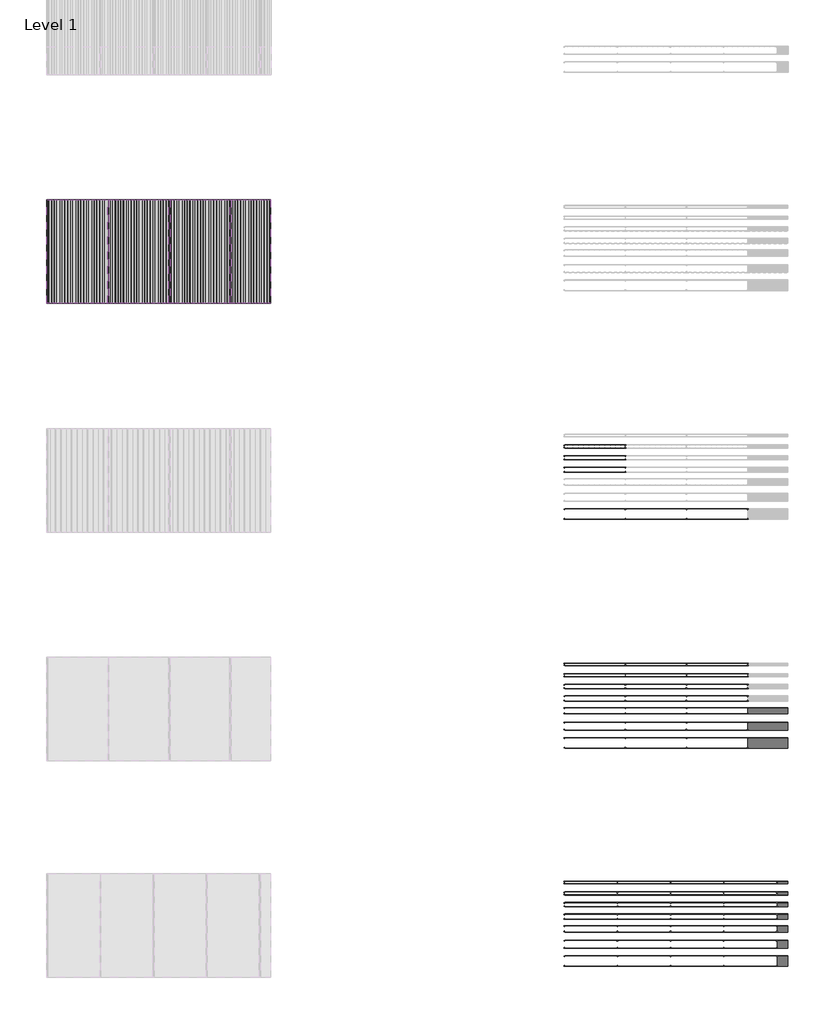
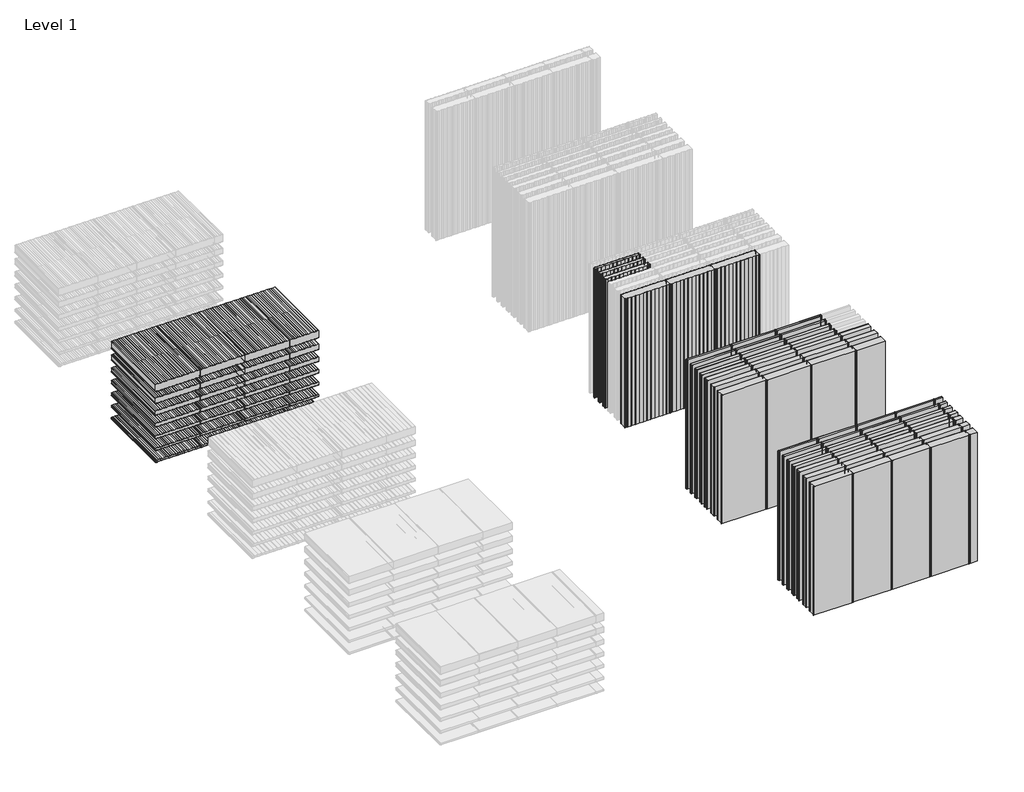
# One storey, part 2 of 4: 93 plates.
"""IFC4 building model written with IfcOpenShell, lengths in millimetres."""

from ifc_helpers import new_model, si_unit, origin, place, context, project, spatial, transform, mapped, element, save
from components import pm1_curtain_panel_a69c14b6, pm1_curtain_panel_199faaa9, pm1_curtain_panel_c875587f, pm1_curtain_panel_6e56c0e7, pm1_curtain_panel_8cfa1c77, pm1_curtain_panel_0b0c5db0, pm1_curtain_panel_f8caf6f3, pm1_curtain_panel_0c0490de, pm1_curtain_panel_82ab8441, pm1_curtain_panel_4f92d4e1, pm1_curtain_panel_da88d7a2, pm1_curtain_panel_565afd56, pm1_curtain_panel_0f760af8, pm1_curtain_panel_8dcfa809, pm1_curtain_panel_flat_profile_ec73de58, pm1_curtain_panel_flat_profile_ea613ef7, pm1_curtain_panel_flat_profile_9c3fc237, pm1_curtain_panel_flat_profile_005291e4, pm1_curtain_panel_flat_profile_9e77dd8b, pm1_curtain_panel_flat_profile_8b054a2c, pm1_curtain_panel_flat_profile_749cd09d, pm1_curtain_panel_flat_profile_bbe97bc2, pm1_curtain_panel_flat_profile_227fa7ea, pm1_curtain_panel_flat_profile_f8a9f7f1, pm1_curtain_panel_micro_ribbed_profile_8efd6a00, pm1_curtain_panel_micro_ribbed_profile_60066d41, pm1_curtain_panel_micro_ribbed_profile_67889fbb, pm1_curtain_panel_micro_ribbed_profile_4c8cd07a, pmh_curtain_panel_flat_profile_f33e06ce, pmh_curtain_panel_flat_profile_2c1a84a9, pmh_curtain_panel_flat_profile_783773f9, pmh_curtain_panel_flat_profile_ba4a8c55, pmh_curtain_panel_flat_profile_743ba4fc, pmh_curtain_panel_flat_profile_8f51420d, pmh_curtain_panel_flat_profile_07da86de, pmh_curtain_panel_flat_profile_cc251eb6, pmh_curtain_panel_flat_profile_66ccdea5, pmh_curtain_panel_flat_profile_36b9df94, pmh_curtain_panel_flat_profile_bc48084c, pmh_curtain_panel_flat_profile_8a9b628f, pmh_curtain_panel_flat_profile_4922355f, pmh_curtain_panel_flat_profile_30f47993

model = new_model("IFC4")

# Units and contexts
model_context = context("Model", 3, world=origin())
ifc_project = project(units=[si_unit("LENGTHUNIT", "METRE", prefix="MILLI")], contexts=[model_context])

# Site, building, storey
site = spatial("IfcSite", under=ifc_project)
building = spatial("IfcBuilding", under=site)
storey = spatial("IfcBuildingStorey", under=building, Name="Level 1", Elevation=0.0)

# Plates
placement = place(None, origin())
pm1_curtain_panel_shape = pm1_curtain_panel_a69c14b6(model_context)
element("IfcPlate", 1, ObjectType="PM1_Curtain-Panel : ACH_PM1_Stone-wool-Panel_50M", at=placement, inside=storey, context=model_context, shape_type="MappedRepresentation", body=[
    mapped(pm1_curtain_panel_shape, transform((-20457.9364012, -419.7144508, 0.0), x_axis=(1.0, 0.0, 0.0), y_axis=(0.0, 0.0, -1.0), z_axis=(0.0, 1.0, 0.0))),
])
element("IfcPlate", 2, ObjectType="PM1_Curtain-Panel : ACH_PM1_Stone-wool-Panel_50M", at=placement, inside=storey, context=model_context, shape_type="MappedRepresentation", body=[
    mapped(pm1_curtain_panel_shape, transform((-19307.9364012, -419.7144508, 0.0), x_axis=(1.0, 0.0, 0.0), y_axis=(0.0, 0.0, -1.0), z_axis=(0.0, 1.0, 0.0))),
])
element("IfcPlate", 3, ObjectType="PM1_Curtain-Panel : ACH_PM1_Stone-wool-Panel_50M", at=placement, inside=storey, context=model_context, shape_type="MappedRepresentation", body=[
    mapped(pm1_curtain_panel_shape, transform((-18157.9364012, -419.7144508, 0.0), x_axis=(1.0, 0.0, 0.0), y_axis=(0.0, 0.0, -1.0), z_axis=(0.0, 1.0, 0.0))),
])
pm1_curtain_panel_2_shape = pm1_curtain_panel_199faaa9(model_context)
element("IfcPlate", 4, ObjectType="PM1_Curtain-Panel : ACH_PM1_Stone-wool-Panel_50M", at=placement, inside=storey, context=model_context, shape_type="MappedRepresentation", body=[
    mapped(pm1_curtain_panel_2_shape, transform((-17207.9244272, -419.7144508, 0.0), x_axis=(1.0, 0.0, 0.0), y_axis=(0.0, 0.0, -1.0), z_axis=(0.0, 1.0, 0.0))),
])
pm1_curtain_panel_3_shape = pm1_curtain_panel_c875587f(model_context)
element("IfcPlate", 5, ObjectType="PM1_Curtain-Panel : ACH_PM1_Stone-wool-Panel_60M", at=placement, inside=storey, context=model_context, shape_type="MappedRepresentation", body=[
    mapped(pm1_curtain_panel_3_shape, transform((-20457.9364012, -419.7144508, 320.0), x_axis=(1.0, 0.0, 0.0), y_axis=(0.0, 0.0, -1.0), z_axis=(0.0, 1.0, 0.0))),
])
element("IfcPlate", 6, ObjectType="PM1_Curtain-Panel : ACH_PM1_Stone-wool-Panel_60M", at=placement, inside=storey, context=model_context, shape_type="MappedRepresentation", body=[
    mapped(pm1_curtain_panel_3_shape, transform((-19307.9364012, -419.7144508, 320.0), x_axis=(1.0, 0.0, 0.0), y_axis=(0.0, 0.0, -1.0), z_axis=(0.0, 1.0, 0.0))),
])
element("IfcPlate", 7, ObjectType="PM1_Curtain-Panel : ACH_PM1_Stone-wool-Panel_60M", at=placement, inside=storey, context=model_context, shape_type="MappedRepresentation", body=[
    mapped(pm1_curtain_panel_3_shape, transform((-18157.9364012, -419.7144508, 320.0), x_axis=(1.0, 0.0, 0.0), y_axis=(0.0, 0.0, -1.0), z_axis=(0.0, 1.0, 0.0))),
])
pm1_curtain_panel_4_shape = pm1_curtain_panel_6e56c0e7(model_context)
element("IfcPlate", 8, ObjectType="PM1_Curtain-Panel : ACH_PM1_Stone-wool-Panel_60M", at=placement, inside=storey, context=model_context, shape_type="MappedRepresentation", body=[
    mapped(pm1_curtain_panel_4_shape, transform((-17207.9244272, -419.7144508, 320.0), x_axis=(1.0, 0.0, 0.0), y_axis=(0.0, 0.0, -1.0), z_axis=(0.0, 1.0, 0.0))),
])
pm1_curtain_panel_5_shape = pm1_curtain_panel_8cfa1c77(model_context)
element("IfcPlate", 9, ObjectType="PM1_Curtain-Panel : ACH_PM1_Stone-wool-Panel_80M", at=placement, inside=storey, context=model_context, shape_type="MappedRepresentation", body=[
    mapped(pm1_curtain_panel_5_shape, transform((-20457.9364012, -419.7144508, 640.0), x_axis=(1.0, 0.0, 0.0), y_axis=(0.0, 0.0, -1.0), z_axis=(0.0, 1.0, 0.0))),
])
element("IfcPlate", 10, ObjectType="PM1_Curtain-Panel : ACH_PM1_Stone-wool-Panel_80M", at=placement, inside=storey, context=model_context, shape_type="MappedRepresentation", body=[
    mapped(pm1_curtain_panel_5_shape, transform((-19307.9364012, -419.7144508, 640.0), x_axis=(1.0, 0.0, 0.0), y_axis=(0.0, 0.0, -1.0), z_axis=(0.0, 1.0, 0.0))),
])
element("IfcPlate", 11, ObjectType="PM1_Curtain-Panel : ACH_PM1_Stone-wool-Panel_80M", at=placement, inside=storey, context=model_context, shape_type="MappedRepresentation", body=[
    mapped(pm1_curtain_panel_5_shape, transform((-18157.9364012, -419.7144508, 640.0), x_axis=(1.0, 0.0, 0.0), y_axis=(0.0, 0.0, -1.0), z_axis=(0.0, 1.0, 0.0))),
])
pm1_curtain_panel_6_shape = pm1_curtain_panel_0b0c5db0(model_context)
element("IfcPlate", 12, ObjectType="PM1_Curtain-Panel : ACH_PM1_Stone-wool-Panel_80M", at=placement, inside=storey, context=model_context, shape_type="MappedRepresentation", body=[
    mapped(pm1_curtain_panel_6_shape, transform((-17207.9244272, -419.7144508, 640.0), x_axis=(1.0, 0.0, 0.0), y_axis=(0.0, 0.0, -1.0), z_axis=(0.0, 1.0, 0.0))),
])
pm1_curtain_panel_7_shape = pm1_curtain_panel_f8caf6f3(model_context)
element("IfcPlate", 13, ObjectType="PM1_Curtain-Panel : ACH_PM1_Stone-wool-Panel_100M", at=placement, inside=storey, context=model_context, shape_type="MappedRepresentation", body=[
    mapped(pm1_curtain_panel_7_shape, transform((-20457.9364012, -419.7144508, 960.0), x_axis=(1.0, 0.0, 0.0), y_axis=(0.0, 0.0, -1.0), z_axis=(0.0, 1.0, 0.0))),
])
element("IfcPlate", 14, ObjectType="PM1_Curtain-Panel : ACH_PM1_Stone-wool-Panel_100M", at=placement, inside=storey, context=model_context, shape_type="MappedRepresentation", body=[
    mapped(pm1_curtain_panel_7_shape, transform((-19307.9364012, -419.7144508, 960.0), x_axis=(1.0, 0.0, 0.0), y_axis=(0.0, 0.0, -1.0), z_axis=(0.0, 1.0, 0.0))),
])
element("IfcPlate", 15, ObjectType="PM1_Curtain-Panel : ACH_PM1_Stone-wool-Panel_100M", at=placement, inside=storey, context=model_context, shape_type="MappedRepresentation", body=[
    mapped(pm1_curtain_panel_7_shape, transform((-18157.9364012, -419.7144508, 960.0), x_axis=(1.0, 0.0, 0.0), y_axis=(0.0, 0.0, -1.0), z_axis=(0.0, 1.0, 0.0))),
])
pm1_curtain_panel_8_shape = pm1_curtain_panel_0c0490de(model_context)
element("IfcPlate", 16, ObjectType="PM1_Curtain-Panel : ACH_PM1_Stone-wool-Panel_100M", at=placement, inside=storey, context=model_context, shape_type="MappedRepresentation", body=[
    mapped(pm1_curtain_panel_8_shape, transform((-17207.9244272, -419.7144508, 960.0), x_axis=(1.0, 0.0, 0.0), y_axis=(0.0, 0.0, -1.0), z_axis=(0.0, 1.0, 0.0))),
])
pm1_curtain_panel_9_shape = pm1_curtain_panel_82ab8441(model_context)
element("IfcPlate", 17, ObjectType="PM1_Curtain-Panel : ACH_PM1_Stone-wool-Panel_120M", at=placement, inside=storey, context=model_context, shape_type="MappedRepresentation", body=[
    mapped(pm1_curtain_panel_9_shape, transform((-20457.9364012, -419.7144508, 1280.0), x_axis=(1.0, 0.0, 0.0), y_axis=(0.0, 0.0, -1.0), z_axis=(0.0, 1.0, 0.0))),
])
element("IfcPlate", 18, ObjectType="PM1_Curtain-Panel : ACH_PM1_Stone-wool-Panel_120M", at=placement, inside=storey, context=model_context, shape_type="MappedRepresentation", body=[
    mapped(pm1_curtain_panel_9_shape, transform((-19307.9364012, -419.7144508, 1280.0), x_axis=(1.0, 0.0, 0.0), y_axis=(0.0, 0.0, -1.0), z_axis=(0.0, 1.0, 0.0))),
])
element("IfcPlate", 19, ObjectType="PM1_Curtain-Panel : ACH_PM1_Stone-wool-Panel_120M", at=placement, inside=storey, context=model_context, shape_type="MappedRepresentation", body=[
    mapped(pm1_curtain_panel_9_shape, transform((-18157.9364012, -419.7144508, 1280.0), x_axis=(1.0, 0.0, 0.0), y_axis=(0.0, 0.0, -1.0), z_axis=(0.0, 1.0, 0.0))),
])
pm1_curtain_panel_10_shape = pm1_curtain_panel_4f92d4e1(model_context)
element("IfcPlate", 20, ObjectType="PM1_Curtain-Panel : ACH_PM1_Stone-wool-Panel_120M", at=placement, inside=storey, context=model_context, shape_type="MappedRepresentation", body=[
    mapped(pm1_curtain_panel_10_shape, transform((-17207.9244272, -419.7144508, 1280.0), x_axis=(1.0, 0.0, 0.0), y_axis=(0.0, 0.0, -1.0), z_axis=(0.0, 1.0, 0.0))),
])
pm1_curtain_panel_11_shape = pm1_curtain_panel_da88d7a2(model_context)
element("IfcPlate", 21, ObjectType="PM1_Curtain-Panel : ACH_PM1_Stone-wool-Panel_150M", at=placement, inside=storey, context=model_context, shape_type="MappedRepresentation", body=[
    mapped(pm1_curtain_panel_11_shape, transform((-20457.9364012, -419.7144508, 1600.0), x_axis=(1.0, 0.0, 0.0), y_axis=(0.0, 0.0, -1.0), z_axis=(0.0, 1.0, 0.0))),
])
element("IfcPlate", 22, ObjectType="PM1_Curtain-Panel : ACH_PM1_Stone-wool-Panel_150M", at=placement, inside=storey, context=model_context, shape_type="MappedRepresentation", body=[
    mapped(pm1_curtain_panel_11_shape, transform((-19307.9364012, -419.7144508, 1600.0), x_axis=(1.0, 0.0, 0.0), y_axis=(0.0, 0.0, -1.0), z_axis=(0.0, 1.0, 0.0))),
])
element("IfcPlate", 23, ObjectType="PM1_Curtain-Panel : ACH_PM1_Stone-wool-Panel_150M", at=placement, inside=storey, context=model_context, shape_type="MappedRepresentation", body=[
    mapped(pm1_curtain_panel_11_shape, transform((-18157.9364012, -419.7144508, 1600.0), x_axis=(1.0, 0.0, 0.0), y_axis=(0.0, 0.0, -1.0), z_axis=(0.0, 1.0, 0.0))),
])
pm1_curtain_panel_12_shape = pm1_curtain_panel_565afd56(model_context)
element("IfcPlate", 24, ObjectType="PM1_Curtain-Panel : ACH_PM1_Stone-wool-Panel_150M", at=placement, inside=storey, context=model_context, shape_type="MappedRepresentation", body=[
    mapped(pm1_curtain_panel_12_shape, transform((-17207.9244272, -419.7144508, 1600.0), x_axis=(1.0, 0.0, 0.0), y_axis=(0.0, 0.0, -1.0), z_axis=(0.0, 1.0, 0.0))),
])
pm1_curtain_panel_13_shape = pm1_curtain_panel_0f760af8(model_context)
element("IfcPlate", 25, ObjectType="PM1_Curtain-Panel : ACH_PM1_Stone-wool-Panel_200M", at=placement, inside=storey, context=model_context, shape_type="MappedRepresentation", body=[
    mapped(pm1_curtain_panel_13_shape, transform((-20457.9364012, -419.7144508, 1920.0), x_axis=(1.0, 0.0, 0.0), y_axis=(0.0, 0.0, -1.0), z_axis=(0.0, 1.0, 0.0))),
])
element("IfcPlate", 26, ObjectType="PM1_Curtain-Panel : ACH_PM1_Stone-wool-Panel_200M", at=placement, inside=storey, context=model_context, shape_type="MappedRepresentation", body=[
    mapped(pm1_curtain_panel_13_shape, transform((-19307.9364012, -419.7144508, 1920.0), x_axis=(1.0, 0.0, 0.0), y_axis=(0.0, 0.0, -1.0), z_axis=(0.0, 1.0, 0.0))),
])
element("IfcPlate", 27, ObjectType="PM1_Curtain-Panel : ACH_PM1_Stone-wool-Panel_200M", at=placement, inside=storey, context=model_context, shape_type="MappedRepresentation", body=[
    mapped(pm1_curtain_panel_13_shape, transform((-18157.9364012, -419.7144508, 1920.0), x_axis=(1.0, 0.0, 0.0), y_axis=(0.0, 0.0, -1.0), z_axis=(0.0, 1.0, 0.0))),
])
pm1_curtain_panel_14_shape = pm1_curtain_panel_8dcfa809(model_context)
element("IfcPlate", 28, ObjectType="PM1_Curtain-Panel : ACH_PM1_Stone-wool-Panel_200M", at=placement, inside=storey, context=model_context, shape_type="MappedRepresentation", body=[
    mapped(pm1_curtain_panel_14_shape, transform((-17207.9244272, -419.7144508, 1920.0), x_axis=(1.0, 0.0, 0.0), y_axis=(0.0, 0.0, -1.0), z_axis=(0.0, 1.0, 0.0))),
])
pm1_curtain_panel_flat_profile_shape = pm1_curtain_panel_flat_profile_ec73de58(model_context)
element("IfcPlate", 29, ObjectType="PM1_Curtain-Panel_Flat-profile : ACH_PM1_Stone-wool-Panel_50M", at=placement, inside=storey, context=model_context, shape_type="MappedRepresentation", body=[
    mapped(pm1_curtain_panel_flat_profile_shape, transform((-10729.4132588, -7179.3131879, 0.0), x_axis=(1.0, 0.0, 0.0), y_axis=(0.0, 1.0, 0.0), z_axis=(0.0, 0.0, 1.0))),
])
element("IfcPlate", 30, ObjectType="PM1_Curtain-Panel_Flat-profile : ACH_PM1_Stone-wool-Panel_50M", at=placement, inside=storey, context=model_context, shape_type="MappedRepresentation", body=[
    mapped(pm1_curtain_panel_flat_profile_shape, transform((-9579.4132588, -7179.3131879, 0.0), x_axis=(1.0, 0.0, 0.0), y_axis=(0.0, 1.0, 0.0), z_axis=(0.0, 0.0, 1.0))),
])
element("IfcPlate", 31, ObjectType="PM1_Curtain-Panel_Flat-profile : ACH_PM1_Stone-wool-Panel_50M", at=placement, inside=storey, context=model_context, shape_type="MappedRepresentation", body=[
    mapped(pm1_curtain_panel_flat_profile_shape, transform((-8429.4132588, -7179.3131879, 0.0), x_axis=(1.0, 0.0, 0.0), y_axis=(0.0, 1.0, 0.0), z_axis=(0.0, 0.0, 1.0))),
])
pm1_curtain_panel_flat_profile_2_shape = pm1_curtain_panel_flat_profile_ea613ef7(model_context)
element("IfcPlate", 32, ObjectType="PM1_Curtain-Panel_Flat-profile : ACH_PM1_Stone-wool-Panel_60M", at=placement, inside=storey, context=model_context, shape_type="MappedRepresentation", body=[
    mapped(pm1_curtain_panel_flat_profile_2_shape, transform((-10729.4132588, -7379.3131879, 0.0), x_axis=(1.0, 0.0, 0.0), y_axis=(0.0, 1.0, 0.0), z_axis=(0.0, 0.0, 1.0))),
])
element("IfcPlate", 33, ObjectType="PM1_Curtain-Panel_Flat-profile : ACH_PM1_Stone-wool-Panel_60M", at=placement, inside=storey, context=model_context, shape_type="MappedRepresentation", body=[
    mapped(pm1_curtain_panel_flat_profile_2_shape, transform((-9579.4132588, -7379.3131879, 0.0), x_axis=(1.0, 0.0, 0.0), y_axis=(0.0, 1.0, 0.0), z_axis=(0.0, 0.0, 1.0))),
])
element("IfcPlate", 34, ObjectType="PM1_Curtain-Panel_Flat-profile : ACH_PM1_Stone-wool-Panel_60M", at=placement, inside=storey, context=model_context, shape_type="MappedRepresentation", body=[
    mapped(pm1_curtain_panel_flat_profile_2_shape, transform((-8429.4132588, -7379.3131879, 0.0), x_axis=(1.0, 0.0, 0.0), y_axis=(0.0, 1.0, 0.0), z_axis=(0.0, 0.0, 1.0))),
])
pm1_curtain_panel_flat_profile_3_shape = pm1_curtain_panel_flat_profile_9c3fc237(model_context)
element("IfcPlate", 35, ObjectType="PM1_Curtain-Panel_Flat-profile : ACH_PM1_Stone-wool-Panel_80M", at=placement, inside=storey, context=model_context, shape_type="MappedRepresentation", body=[
    mapped(pm1_curtain_panel_flat_profile_3_shape, transform((-10729.4132588, -7579.3131879, 0.0), x_axis=(1.0, 0.0, 0.0), y_axis=(0.0, 1.0, 0.0), z_axis=(0.0, 0.0, 1.0))),
])
element("IfcPlate", 36, ObjectType="PM1_Curtain-Panel_Flat-profile : ACH_PM1_Stone-wool-Panel_80M", at=placement, inside=storey, context=model_context, shape_type="MappedRepresentation", body=[
    mapped(pm1_curtain_panel_flat_profile_3_shape, transform((-9579.4132588, -7579.3131879, 0.0), x_axis=(1.0, 0.0, 0.0), y_axis=(0.0, 1.0, 0.0), z_axis=(0.0, 0.0, 1.0))),
])
element("IfcPlate", 37, ObjectType="PM1_Curtain-Panel_Flat-profile : ACH_PM1_Stone-wool-Panel_80M", at=placement, inside=storey, context=model_context, shape_type="MappedRepresentation", body=[
    mapped(pm1_curtain_panel_flat_profile_3_shape, transform((-8429.4132588, -7579.3131879, 0.0), x_axis=(1.0, 0.0, 0.0), y_axis=(0.0, 1.0, 0.0), z_axis=(0.0, 0.0, 1.0))),
])
pm1_curtain_panel_flat_profile_4_shape = pm1_curtain_panel_flat_profile_005291e4(model_context)
element("IfcPlate", 38, ObjectType="PM1_Curtain-Panel_Flat-profile : ACH_PM1_Stone-wool-Panel_150M", at=placement, inside=storey, context=model_context, shape_type="MappedRepresentation", body=[
    mapped(pm1_curtain_panel_flat_profile_4_shape, transform((-10729.4132588, -8290.1131879, 0.0), x_axis=(1.0, 0.0, 0.0), y_axis=(0.0, 1.0, 0.0), z_axis=(0.0, 0.0, 1.0))),
])
element("IfcPlate", 39, ObjectType="PM1_Curtain-Panel_Flat-profile : ACH_PM1_Stone-wool-Panel_150M", at=placement, inside=storey, context=model_context, shape_type="MappedRepresentation", body=[
    mapped(pm1_curtain_panel_flat_profile_4_shape, transform((-9579.4132588, -8290.1131879, 0.0), x_axis=(1.0, 0.0, 0.0), y_axis=(0.0, 1.0, 0.0), z_axis=(0.0, 0.0, 1.0))),
])
element("IfcPlate", 40, ObjectType="PM1_Curtain-Panel_Flat-profile : ACH_PM1_Stone-wool-Panel_150M", at=placement, inside=storey, context=model_context, shape_type="MappedRepresentation", body=[
    mapped(pm1_curtain_panel_flat_profile_4_shape, transform((-8429.4132588, -8290.1131879, 0.0), x_axis=(1.0, 0.0, 0.0), y_axis=(0.0, 1.0, 0.0), z_axis=(0.0, 0.0, 1.0))),
])
pm1_curtain_panel_flat_profile_5_shape = pm1_curtain_panel_flat_profile_9e77dd8b(model_context)
element("IfcPlate", 41, ObjectType="PM1_Curtain-Panel_Flat-profile : ACH_PM1_Stone-wool-Panel_150M", at=placement, inside=storey, context=model_context, shape_type="MappedRepresentation", body=[
    mapped(pm1_curtain_panel_flat_profile_5_shape, transform((-7479.4132588, -8290.1131879, 0.0), x_axis=(1.0, 0.0, 0.0), y_axis=(0.0, 1.0, 0.0), z_axis=(0.0, 0.0, 1.0))),
])
pm1_curtain_panel_flat_profile_6_shape = pm1_curtain_panel_flat_profile_8b054a2c(model_context)
element("IfcPlate", 42, ObjectType="PM1_Curtain-Panel_Flat-profile : ACH_PM1_Stone-wool-Panel_100M", at=placement, inside=storey, context=model_context, shape_type="MappedRepresentation", body=[
    mapped(pm1_curtain_panel_flat_profile_6_shape, transform((-10729.4132588, -7795.1131879, 0.0), x_axis=(1.0, 0.0, 0.0), y_axis=(0.0, 1.0, 0.0), z_axis=(0.0, 0.0, 1.0))),
])
element("IfcPlate", 43, ObjectType="PM1_Curtain-Panel_Flat-profile : ACH_PM1_Stone-wool-Panel_100M", at=placement, inside=storey, context=model_context, shape_type="MappedRepresentation", body=[
    mapped(pm1_curtain_panel_flat_profile_6_shape, transform((-9579.4132588, -7795.1131879, 0.0), x_axis=(1.0, 0.0, 0.0), y_axis=(0.0, 1.0, 0.0), z_axis=(0.0, 0.0, 1.0))),
])
element("IfcPlate", 44, ObjectType="PM1_Curtain-Panel_Flat-profile : ACH_PM1_Stone-wool-Panel_100M", at=placement, inside=storey, context=model_context, shape_type="MappedRepresentation", body=[
    mapped(pm1_curtain_panel_flat_profile_6_shape, transform((-8429.4132588, -7795.1131879, 0.0), x_axis=(1.0, 0.0, 0.0), y_axis=(0.0, 1.0, 0.0), z_axis=(0.0, 0.0, 1.0))),
])
pm1_curtain_panel_flat_profile_7_shape = pm1_curtain_panel_flat_profile_749cd09d(model_context)
element("IfcPlate", 45, ObjectType="PM1_Curtain-Panel_Flat-profile : ACH_PM1_Stone-wool-Panel_120M", at=placement, inside=storey, context=model_context, shape_type="MappedRepresentation", body=[
    mapped(pm1_curtain_panel_flat_profile_7_shape, transform((-10729.4132588, -8015.1131879, 0.0), x_axis=(1.0, 0.0, 0.0), y_axis=(0.0, 1.0, 0.0), z_axis=(0.0, 0.0, 1.0))),
])
element("IfcPlate", 46, ObjectType="PM1_Curtain-Panel_Flat-profile : ACH_PM1_Stone-wool-Panel_120M", at=placement, inside=storey, context=model_context, shape_type="MappedRepresentation", body=[
    mapped(pm1_curtain_panel_flat_profile_7_shape, transform((-9579.4132588, -8015.1131879, 0.0), x_axis=(1.0, 0.0, 0.0), y_axis=(0.0, 1.0, 0.0), z_axis=(0.0, 0.0, 1.0))),
])
element("IfcPlate", 47, ObjectType="PM1_Curtain-Panel_Flat-profile : ACH_PM1_Stone-wool-Panel_120M", at=placement, inside=storey, context=model_context, shape_type="MappedRepresentation", body=[
    mapped(pm1_curtain_panel_flat_profile_7_shape, transform((-8429.4132588, -8015.1131879, 0.0), x_axis=(1.0, 0.0, 0.0), y_axis=(0.0, 1.0, 0.0), z_axis=(0.0, 0.0, 1.0))),
])
pm1_curtain_panel_flat_profile_8_shape = pm1_curtain_panel_flat_profile_bbe97bc2(model_context)
element("IfcPlate", 48, ObjectType="PM1_Curtain-Panel_Flat-profile : ACH_PM1_Stone-wool-Panel_120M", at=placement, inside=storey, context=model_context, shape_type="MappedRepresentation", body=[
    mapped(pm1_curtain_panel_flat_profile_8_shape, transform((-7479.4132588, -8015.1131879, 0.0), x_axis=(1.0, 0.0, 0.0), y_axis=(0.0, 1.0, 0.0), z_axis=(0.0, 0.0, 1.0))),
])
pm1_curtain_panel_flat_profile_9_shape = pm1_curtain_panel_flat_profile_227fa7ea(model_context)
element("IfcPlate", 49, ObjectType="PM1_Curtain-Panel_Flat-profile : ACH_PM1_Stone-wool-Panel_200M", at=placement, inside=storey, context=model_context, shape_type="MappedRepresentation", body=[
    mapped(pm1_curtain_panel_flat_profile_9_shape, transform((-10729.4132588, -8580.1131879, 0.0), x_axis=(1.0, 0.0, 0.0), y_axis=(0.0, 1.0, 0.0), z_axis=(0.0, 0.0, 1.0))),
])
element("IfcPlate", 50, ObjectType="PM1_Curtain-Panel_Flat-profile : ACH_PM1_Stone-wool-Panel_200M", at=placement, inside=storey, context=model_context, shape_type="MappedRepresentation", body=[
    mapped(pm1_curtain_panel_flat_profile_9_shape, transform((-9579.4132588, -8580.1131879, 0.0), x_axis=(1.0, 0.0, 0.0), y_axis=(0.0, 1.0, 0.0), z_axis=(0.0, 0.0, 1.0))),
])
element("IfcPlate", 51, ObjectType="PM1_Curtain-Panel_Flat-profile : ACH_PM1_Stone-wool-Panel_200M", at=placement, inside=storey, context=model_context, shape_type="MappedRepresentation", body=[
    mapped(pm1_curtain_panel_flat_profile_9_shape, transform((-8429.4132588, -8580.1131879, 0.0), x_axis=(1.0, 0.0, 0.0), y_axis=(0.0, 1.0, 0.0), z_axis=(0.0, 0.0, 1.0))),
])
pm1_curtain_panel_flat_profile_10_shape = pm1_curtain_panel_flat_profile_f8a9f7f1(model_context)
element("IfcPlate", 52, ObjectType="PM1_Curtain-Panel_Flat-profile : ACH_PM1_Stone-wool-Panel_200M", at=placement, inside=storey, context=model_context, shape_type="MappedRepresentation", body=[
    mapped(pm1_curtain_panel_flat_profile_10_shape, transform((-7479.4132588, -8580.1131879, 0.0), x_axis=(1.0, 0.0, 0.0), y_axis=(0.0, 1.0, 0.0), z_axis=(0.0, 0.0, 1.0))),
])
pm1_curtain_panel_micro_ribbed_profile_shape = pm1_curtain_panel_micro_ribbed_profile_8efd6a00(model_context)
element("IfcPlate", 53, ObjectType="PM1_Curtain-Panel_Micro-ribbed-profile : ACH_PM1_Stone-wool-Panel_60M", at=placement, inside=storey, context=model_context, shape_type="MappedRepresentation", body=[
    mapped(pm1_curtain_panel_micro_ribbed_profile_shape, transform((-10729.4132588, -3079.3131879, 0.0), x_axis=(1.0, 0.0, 0.0), y_axis=(0.0, 1.0, 0.0), z_axis=(0.0, 0.0, 1.0))),
])
pm1_curtain_panel_micro_ribbed_profile_2_shape = pm1_curtain_panel_micro_ribbed_profile_60066d41(model_context)
element("IfcPlate", 54, ObjectType="PM1_Curtain-Panel_Micro-ribbed-profile : ACH_PM1_Stone-wool-Panel_80M", at=placement, inside=storey, context=model_context, shape_type="MappedRepresentation", body=[
    mapped(pm1_curtain_panel_micro_ribbed_profile_2_shape, transform((-10729.4132588, -3279.3131879, 0.0), x_axis=(1.0, 0.0, 0.0), y_axis=(0.0, 1.0, 0.0), z_axis=(0.0, 0.0, 1.0))),
])
pm1_curtain_panel_micro_ribbed_profile_3_shape = pm1_curtain_panel_micro_ribbed_profile_67889fbb(model_context)
element("IfcPlate", 55, ObjectType="PM1_Curtain-Panel_Micro-ribbed-profile : ACH_PM1_Stone-wool-Panel_100M", at=placement, inside=storey, context=model_context, shape_type="MappedRepresentation", body=[
    mapped(pm1_curtain_panel_micro_ribbed_profile_3_shape, transform((-10729.4132588, -3495.1131879, 0.0), x_axis=(1.0, 0.0, 0.0), y_axis=(0.0, 1.0, 0.0), z_axis=(0.0, 0.0, 1.0))),
])
pm1_curtain_panel_micro_ribbed_profile_4_shape = pm1_curtain_panel_micro_ribbed_profile_4c8cd07a(model_context)
element("IfcPlate", 56, ObjectType="PM1_Curtain-Panel_Micro-ribbed-profile : ACH_PM1_Stone-wool-Panel_200M", at=placement, inside=storey, context=model_context, shape_type="MappedRepresentation", body=[
    mapped(pm1_curtain_panel_micro_ribbed_profile_4_shape, transform((-10729.4132588, -4280.1131879, 0.0), x_axis=(1.0, 0.0, 0.0), y_axis=(0.0, 1.0, 0.0), z_axis=(0.0, 0.0, 1.0))),
])
element("IfcPlate", 57, ObjectType="PM1_Curtain-Panel_Micro-ribbed-profile : ACH_PM1_Stone-wool-Panel_200M", at=placement, inside=storey, context=model_context, shape_type="MappedRepresentation", body=[
    mapped(pm1_curtain_panel_micro_ribbed_profile_4_shape, transform((-9579.4132588, -4280.1131879, 0.0), x_axis=(1.0, 0.0, 0.0), y_axis=(0.0, 1.0, 0.0), z_axis=(0.0, 0.0, 1.0))),
])
element("IfcPlate", 58, ObjectType="PM1_Curtain-Panel_Micro-ribbed-profile : ACH_PM1_Stone-wool-Panel_200M", at=placement, inside=storey, context=model_context, shape_type="MappedRepresentation", body=[
    mapped(pm1_curtain_panel_micro_ribbed_profile_4_shape, transform((-8429.4132588, -4280.1131879, 0.0), x_axis=(1.0, 0.0, 0.0), y_axis=(0.0, 1.0, 0.0), z_axis=(0.0, 0.0, 1.0))),
])
pmh_curtain_panel_flat_profile_shape = pmh_curtain_panel_flat_profile_f33e06ce(model_context)
element("IfcPlate", 59, ObjectType="PMH_Curtain-Panel_Flat-profile : ACH_PMH_Stone-wool-Panel_60M", at=placement, inside=storey, context=model_context, shape_type="MappedRepresentation", body=[
    mapped(pmh_curtain_panel_flat_profile_shape, transform((-10804.4132588, -11479.3131879, 0.0), x_axis=(1.0, 0.0, 0.0), y_axis=(0.0, 1.0, 0.0), z_axis=(0.0, 0.0, 1.0))),
])
element("IfcPlate", 60, ObjectType="PMH_Curtain-Panel_Flat-profile : ACH_PMH_Stone-wool-Panel_60M", at=placement, inside=storey, context=model_context, shape_type="MappedRepresentation", body=[
    mapped(pmh_curtain_panel_flat_profile_shape, transform((-9804.4132588, -11479.3131879, 0.0), x_axis=(1.0, 0.0, 0.0), y_axis=(0.0, 1.0, 0.0), z_axis=(0.0, 0.0, 1.0))),
])
element("IfcPlate", 61, ObjectType="PMH_Curtain-Panel_Flat-profile : ACH_PMH_Stone-wool-Panel_60M", at=placement, inside=storey, context=model_context, shape_type="MappedRepresentation", body=[
    mapped(pmh_curtain_panel_flat_profile_shape, transform((-8804.4132588, -11479.3131879, 0.0), x_axis=(1.0, 0.0, 0.0), y_axis=(0.0, 1.0, 0.0), z_axis=(0.0, 0.0, 1.0))),
])
element("IfcPlate", 62, ObjectType="PMH_Curtain-Panel_Flat-profile : ACH_PMH_Stone-wool-Panel_60M", at=placement, inside=storey, context=model_context, shape_type="MappedRepresentation", body=[
    mapped(pmh_curtain_panel_flat_profile_shape, transform((-7804.4132588, -11479.3131879, 0.0), x_axis=(1.0, 0.0, 0.0), y_axis=(0.0, 1.0, 0.0), z_axis=(0.0, 0.0, 1.0))),
])
pmh_curtain_panel_flat_profile_2_shape = pmh_curtain_panel_flat_profile_2c1a84a9(model_context)
element("IfcPlate", 63, ObjectType="PMH_Curtain-Panel_Flat-profile : ACH_PMH_Stone-wool-Panel_80M", at=placement, inside=storey, context=model_context, shape_type="MappedRepresentation", body=[
    mapped(pmh_curtain_panel_flat_profile_2_shape, transform((-10804.4132588, -11679.3131879, 0.0), x_axis=(1.0, 0.0, 0.0), y_axis=(0.0, 1.0, 0.0), z_axis=(0.0, 0.0, 1.0))),
])
element("IfcPlate", 64, ObjectType="PMH_Curtain-Panel_Flat-profile : ACH_PMH_Stone-wool-Panel_80M", at=placement, inside=storey, context=model_context, shape_type="MappedRepresentation", body=[
    mapped(pmh_curtain_panel_flat_profile_2_shape, transform((-9804.4132588, -11679.3131879, 0.0), x_axis=(1.0, 0.0, 0.0), y_axis=(0.0, 1.0, 0.0), z_axis=(0.0, 0.0, 1.0))),
])
element("IfcPlate", 65, ObjectType="PMH_Curtain-Panel_Flat-profile : ACH_PMH_Stone-wool-Panel_80M", at=placement, inside=storey, context=model_context, shape_type="MappedRepresentation", body=[
    mapped(pmh_curtain_panel_flat_profile_2_shape, transform((-8804.4132588, -11679.3131879, 0.0), x_axis=(1.0, 0.0, 0.0), y_axis=(0.0, 1.0, 0.0), z_axis=(0.0, 0.0, 1.0))),
])
element("IfcPlate", 66, ObjectType="PMH_Curtain-Panel_Flat-profile : ACH_PMH_Stone-wool-Panel_80M", at=placement, inside=storey, context=model_context, shape_type="MappedRepresentation", body=[
    mapped(pmh_curtain_panel_flat_profile_2_shape, transform((-7804.4132588, -11679.3131879, 0.0), x_axis=(1.0, 0.0, 0.0), y_axis=(0.0, 1.0, 0.0), z_axis=(0.0, 0.0, 1.0))),
])
pmh_curtain_panel_flat_profile_3_shape = pmh_curtain_panel_flat_profile_783773f9(model_context)
element("IfcPlate", 67, ObjectType="PMH_Curtain-Panel_Flat-profile : ACH_PMH_Stone-wool-Panel_50M", at=placement, inside=storey, context=model_context, shape_type="MappedRepresentation", body=[
    mapped(pmh_curtain_panel_flat_profile_3_shape, transform((-10804.4132588, -11279.3131879, 0.0), x_axis=(1.0, 0.0, 0.0), y_axis=(0.0, 1.0, 0.0), z_axis=(0.0, 0.0, 1.0))),
])
element("IfcPlate", 68, ObjectType="PMH_Curtain-Panel_Flat-profile : ACH_PMH_Stone-wool-Panel_50M", at=placement, inside=storey, context=model_context, shape_type="MappedRepresentation", body=[
    mapped(pmh_curtain_panel_flat_profile_3_shape, transform((-9804.4132588, -11279.3131879, 0.0), x_axis=(1.0, 0.0, 0.0), y_axis=(0.0, 1.0, 0.0), z_axis=(0.0, 0.0, 1.0))),
])
element("IfcPlate", 69, ObjectType="PMH_Curtain-Panel_Flat-profile : ACH_PMH_Stone-wool-Panel_50M", at=placement, inside=storey, context=model_context, shape_type="MappedRepresentation", body=[
    mapped(pmh_curtain_panel_flat_profile_3_shape, transform((-8804.4132588, -11279.3131879, 0.0), x_axis=(1.0, 0.0, 0.0), y_axis=(0.0, 1.0, 0.0), z_axis=(0.0, 0.0, 1.0))),
])
element("IfcPlate", 70, ObjectType="PMH_Curtain-Panel_Flat-profile : ACH_PMH_Stone-wool-Panel_50M", at=placement, inside=storey, context=model_context, shape_type="MappedRepresentation", body=[
    mapped(pmh_curtain_panel_flat_profile_3_shape, transform((-7804.4132588, -11279.3131879, 0.0), x_axis=(1.0, 0.0, 0.0), y_axis=(0.0, 1.0, 0.0), z_axis=(0.0, 0.0, 1.0))),
])
pmh_curtain_panel_flat_profile_4_shape = pmh_curtain_panel_flat_profile_ba4a8c55(model_context)
element("IfcPlate", 71, ObjectType="PMH_Curtain-Panel_Flat-profile : ACH_PMH_Stone-wool-Panel_100M", at=placement, inside=storey, context=model_context, shape_type="MappedRepresentation", body=[
    mapped(pmh_curtain_panel_flat_profile_4_shape, transform((-10804.4132588, -11895.1131879, 0.0), x_axis=(1.0, 0.0, 0.0), y_axis=(0.0, 1.0, 0.0), z_axis=(0.0, 0.0, 1.0))),
])
element("IfcPlate", 72, ObjectType="PMH_Curtain-Panel_Flat-profile : ACH_PMH_Stone-wool-Panel_100M", at=placement, inside=storey, context=model_context, shape_type="MappedRepresentation", body=[
    mapped(pmh_curtain_panel_flat_profile_4_shape, transform((-9804.4132588, -11895.1131879, 0.0), x_axis=(1.0, 0.0, 0.0), y_axis=(0.0, 1.0, 0.0), z_axis=(0.0, 0.0, 1.0))),
])
element("IfcPlate", 73, ObjectType="PMH_Curtain-Panel_Flat-profile : ACH_PMH_Stone-wool-Panel_100M", at=placement, inside=storey, context=model_context, shape_type="MappedRepresentation", body=[
    mapped(pmh_curtain_panel_flat_profile_4_shape, transform((-8804.4132588, -11895.1131879, 0.0), x_axis=(1.0, 0.0, 0.0), y_axis=(0.0, 1.0, 0.0), z_axis=(0.0, 0.0, 1.0))),
])
element("IfcPlate", 74, ObjectType="PMH_Curtain-Panel_Flat-profile : ACH_PMH_Stone-wool-Panel_100M", at=placement, inside=storey, context=model_context, shape_type="MappedRepresentation", body=[
    mapped(pmh_curtain_panel_flat_profile_4_shape, transform((-7804.4132588, -11895.1131879, 0.0), x_axis=(1.0, 0.0, 0.0), y_axis=(0.0, 1.0, 0.0), z_axis=(0.0, 0.0, 1.0))),
])
pmh_curtain_panel_flat_profile_5_shape = pmh_curtain_panel_flat_profile_743ba4fc(model_context)
element("IfcPlate", 75, ObjectType="PMH_Curtain-Panel_Flat-profile : ACH_PMH_Stone-wool-Panel_120M", at=placement, inside=storey, context=model_context, shape_type="MappedRepresentation", body=[
    mapped(pmh_curtain_panel_flat_profile_5_shape, transform((-10804.4132588, -12115.1131879, 0.0), x_axis=(1.0, 0.0, 0.0), y_axis=(0.0, 1.0, 0.0), z_axis=(0.0, 0.0, 1.0))),
])
element("IfcPlate", 76, ObjectType="PMH_Curtain-Panel_Flat-profile : ACH_PMH_Stone-wool-Panel_120M", at=placement, inside=storey, context=model_context, shape_type="MappedRepresentation", body=[
    mapped(pmh_curtain_panel_flat_profile_5_shape, transform((-9804.4132588, -12115.1131879, 0.0), x_axis=(1.0, 0.0, 0.0), y_axis=(0.0, 1.0, 0.0), z_axis=(0.0, 0.0, 1.0))),
])
element("IfcPlate", 77, ObjectType="PMH_Curtain-Panel_Flat-profile : ACH_PMH_Stone-wool-Panel_120M", at=placement, inside=storey, context=model_context, shape_type="MappedRepresentation", body=[
    mapped(pmh_curtain_panel_flat_profile_5_shape, transform((-8804.4132588, -12115.1131879, 0.0), x_axis=(1.0, 0.0, 0.0), y_axis=(0.0, 1.0, 0.0), z_axis=(0.0, 0.0, 1.0))),
])
element("IfcPlate", 78, ObjectType="PMH_Curtain-Panel_Flat-profile : ACH_PMH_Stone-wool-Panel_120M", at=placement, inside=storey, context=model_context, shape_type="MappedRepresentation", body=[
    mapped(pmh_curtain_panel_flat_profile_5_shape, transform((-7804.4132588, -12115.1131879, 0.0), x_axis=(1.0, 0.0, 0.0), y_axis=(0.0, 1.0, 0.0), z_axis=(0.0, 0.0, 1.0))),
])
pmh_curtain_panel_flat_profile_6_shape = pmh_curtain_panel_flat_profile_8f51420d(model_context)
element("IfcPlate", 79, ObjectType="PMH_Curtain-Panel_Flat-profile : ACH_PMH_Stone-wool-Panel_150M", at=placement, inside=storey, context=model_context, shape_type="MappedRepresentation", body=[
    mapped(pmh_curtain_panel_flat_profile_6_shape, transform((-10804.4132588, -12390.1131879, 0.0), x_axis=(1.0, 0.0, 0.0), y_axis=(0.0, 1.0, 0.0), z_axis=(0.0, 0.0, 1.0))),
])
element("IfcPlate", 80, ObjectType="PMH_Curtain-Panel_Flat-profile : ACH_PMH_Stone-wool-Panel_150M", at=placement, inside=storey, context=model_context, shape_type="MappedRepresentation", body=[
    mapped(pmh_curtain_panel_flat_profile_6_shape, transform((-9804.4132588, -12390.1131879, 0.0), x_axis=(1.0, 0.0, 0.0), y_axis=(0.0, 1.0, 0.0), z_axis=(0.0, 0.0, 1.0))),
])
element("IfcPlate", 81, ObjectType="PMH_Curtain-Panel_Flat-profile : ACH_PMH_Stone-wool-Panel_150M", at=placement, inside=storey, context=model_context, shape_type="MappedRepresentation", body=[
    mapped(pmh_curtain_panel_flat_profile_6_shape, transform((-8804.4132588, -12390.1131879, 0.0), x_axis=(1.0, 0.0, 0.0), y_axis=(0.0, 1.0, 0.0), z_axis=(0.0, 0.0, 1.0))),
])
element("IfcPlate", 82, ObjectType="PMH_Curtain-Panel_Flat-profile : ACH_PMH_Stone-wool-Panel_150M", at=placement, inside=storey, context=model_context, shape_type="MappedRepresentation", body=[
    mapped(pmh_curtain_panel_flat_profile_6_shape, transform((-7804.4132588, -12390.1131879, 0.0), x_axis=(1.0, 0.0, 0.0), y_axis=(0.0, 1.0, 0.0), z_axis=(0.0, 0.0, 1.0))),
])
pmh_curtain_panel_flat_profile_7_shape = pmh_curtain_panel_flat_profile_07da86de(model_context)
element("IfcPlate", 83, ObjectType="PMH_Curtain-Panel_Flat-profile : ACH_PMH_Stone-wool-Panel_200M", at=placement, inside=storey, context=model_context, shape_type="MappedRepresentation", body=[
    mapped(pmh_curtain_panel_flat_profile_7_shape, transform((-10804.4132588, -12680.1131879, 0.0), x_axis=(1.0, 0.0, 0.0), y_axis=(0.0, 1.0, 0.0), z_axis=(0.0, 0.0, 1.0))),
])
element("IfcPlate", 84, ObjectType="PMH_Curtain-Panel_Flat-profile : ACH_PMH_Stone-wool-Panel_200M", at=placement, inside=storey, context=model_context, shape_type="MappedRepresentation", body=[
    mapped(pmh_curtain_panel_flat_profile_7_shape, transform((-9804.4132588, -12680.1131879, 0.0), x_axis=(1.0, 0.0, 0.0), y_axis=(0.0, 1.0, 0.0), z_axis=(0.0, 0.0, 1.0))),
])
element("IfcPlate", 85, ObjectType="PMH_Curtain-Panel_Flat-profile : ACH_PMH_Stone-wool-Panel_200M", at=placement, inside=storey, context=model_context, shape_type="MappedRepresentation", body=[
    mapped(pmh_curtain_panel_flat_profile_7_shape, transform((-8804.4132588, -12680.1131879, 0.0), x_axis=(1.0, 0.0, 0.0), y_axis=(0.0, 1.0, 0.0), z_axis=(0.0, 0.0, 1.0))),
])
element("IfcPlate", 86, ObjectType="PMH_Curtain-Panel_Flat-profile : ACH_PMH_Stone-wool-Panel_200M", at=placement, inside=storey, context=model_context, shape_type="MappedRepresentation", body=[
    mapped(pmh_curtain_panel_flat_profile_7_shape, transform((-7804.4132588, -12680.1131879, 0.0), x_axis=(1.0, 0.0, 0.0), y_axis=(0.0, 1.0, 0.0), z_axis=(0.0, 0.0, 1.0))),
])
pmh_curtain_panel_flat_profile_8_shape = pmh_curtain_panel_flat_profile_cc251eb6(model_context)
element("IfcPlate", 87, ObjectType="PMH_Curtain-Panel_Flat-profile : ACH_PMH_Stone-wool-Panel_50M", at=placement, inside=storey, context=model_context, shape_type="MappedRepresentation", body=[
    mapped(pmh_curtain_panel_flat_profile_8_shape, transform((-7204.4012848, -11279.3131879, 0.0), x_axis=(1.0, 0.0, 0.0), y_axis=(0.0, 1.0, 0.0), z_axis=(0.0, 0.0, 1.0))),
])
pmh_curtain_panel_flat_profile_9_shape = pmh_curtain_panel_flat_profile_66ccdea5(model_context)
element("IfcPlate", 88, ObjectType="PMH_Curtain-Panel_Flat-profile : ACH_PMH_Stone-wool-Panel_60M", at=placement, inside=storey, context=model_context, shape_type="MappedRepresentation", body=[
    mapped(pmh_curtain_panel_flat_profile_9_shape, transform((-7204.4132588, -11479.3131879, 0.0), x_axis=(1.0, 0.0, 0.0), y_axis=(0.0, 1.0, 0.0), z_axis=(0.0, 0.0, 1.0))),
])
pmh_curtain_panel_flat_profile_10_shape = pmh_curtain_panel_flat_profile_36b9df94(model_context)
element("IfcPlate", 89, ObjectType="PMH_Curtain-Panel_Flat-profile : ACH_PMH_Stone-wool-Panel_80M", at=placement, inside=storey, context=model_context, shape_type="MappedRepresentation", body=[
    mapped(pmh_curtain_panel_flat_profile_10_shape, transform((-7204.4132588, -11679.3131879, 0.0), x_axis=(1.0, 0.0, 0.0), y_axis=(0.0, 1.0, 0.0), z_axis=(0.0, 0.0, 1.0))),
])
pmh_curtain_panel_flat_profile_11_shape = pmh_curtain_panel_flat_profile_bc48084c(model_context)
element("IfcPlate", 90, ObjectType="PMH_Curtain-Panel_Flat-profile : ACH_PMH_Stone-wool-Panel_100M", at=placement, inside=storey, context=model_context, shape_type="MappedRepresentation", body=[
    mapped(pmh_curtain_panel_flat_profile_11_shape, transform((-7204.4132588, -11895.1131879, 0.0), x_axis=(1.0, 0.0, 0.0), y_axis=(0.0, 1.0, 0.0), z_axis=(0.0, 0.0, 1.0))),
])
pmh_curtain_panel_flat_profile_12_shape = pmh_curtain_panel_flat_profile_8a9b628f(model_context)
element("IfcPlate", 91, ObjectType="PMH_Curtain-Panel_Flat-profile : ACH_PMH_Stone-wool-Panel_120M", at=placement, inside=storey, context=model_context, shape_type="MappedRepresentation", body=[
    mapped(pmh_curtain_panel_flat_profile_12_shape, transform((-7204.4132588, -12115.1131879, 0.0), x_axis=(1.0, 0.0, 0.0), y_axis=(0.0, 1.0, 0.0), z_axis=(0.0, 0.0, 1.0))),
])
pmh_curtain_panel_flat_profile_13_shape = pmh_curtain_panel_flat_profile_4922355f(model_context)
element("IfcPlate", 92, ObjectType="PMH_Curtain-Panel_Flat-profile : ACH_PMH_Stone-wool-Panel_150M", at=placement, inside=storey, context=model_context, shape_type="MappedRepresentation", body=[
    mapped(pmh_curtain_panel_flat_profile_13_shape, transform((-7204.4132588, -12390.1131879, 0.0), x_axis=(1.0, 0.0, 0.0), y_axis=(0.0, 1.0, 0.0), z_axis=(0.0, 0.0, 1.0))),
])
pmh_curtain_panel_flat_profile_14_shape = pmh_curtain_panel_flat_profile_30f47993(model_context)
element("IfcPlate", 93, ObjectType="PMH_Curtain-Panel_Flat-profile : ACH_PMH_Stone-wool-Panel_200M", at=placement, inside=storey, context=model_context, shape_type="MappedRepresentation", body=[
    mapped(pmh_curtain_panel_flat_profile_14_shape, transform((-7204.4132588, -12680.1131879, 0.0), x_axis=(1.0, 0.0, 0.0), y_axis=(0.0, 1.0, 0.0), z_axis=(0.0, 0.0, 1.0))),
])

save(model, "model.ifc")
